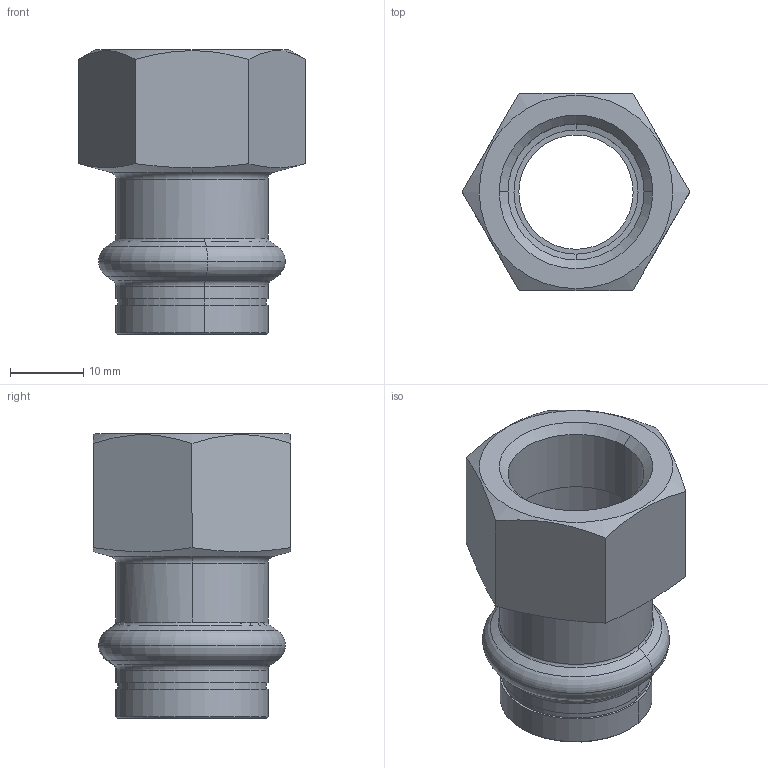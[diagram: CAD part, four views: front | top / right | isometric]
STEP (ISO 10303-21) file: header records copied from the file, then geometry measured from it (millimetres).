
FILE_DESCRIPTION(('CoCreate Modeling STEP Export'),'2;1');
FILE_NAME('8270GVW1812.stp','2013-03-05T11:06:37',(''),(''),'CoCreate Modeling STEP processor for AP214 (Solid Model)','CoCreate Modeling 17.00A 17-Jun-2010 (C) Parametric Technology GmbH','');
FILE_SCHEMA(('AUTOMOTIVE_DESIGN { 1 0 10303 214 1 1 1 1 }'));
Length unit declared in the file: millimetre
Products named in the file (2): 8270GVW1812
Assembly tree (1 placements, depth 2):
  8270GVW1812
    8270GVW1812
Bounding box: 31.18 x 27 x 39 mm (x, y, z)
Volume: 8000.8 mm3; surface area: 6391.5 mm2
Topology: 1 solids, 1 shells, 62 faces, 145 edges, 89 vertices
Faces by surface type: cone 20, cylinder 20, plane 12, torus 10
Entity records: 2248 total; most frequent: CARTESIAN_POINT 985, ORIENTED_EDGE 290, DIRECTION 202, EDGE_CURVE 145, VERTEX_POINT 89, AXIS2_PLACEMENT_3D 78, EDGE_LOOP 68, FACE_OUTER_BOUND 62
